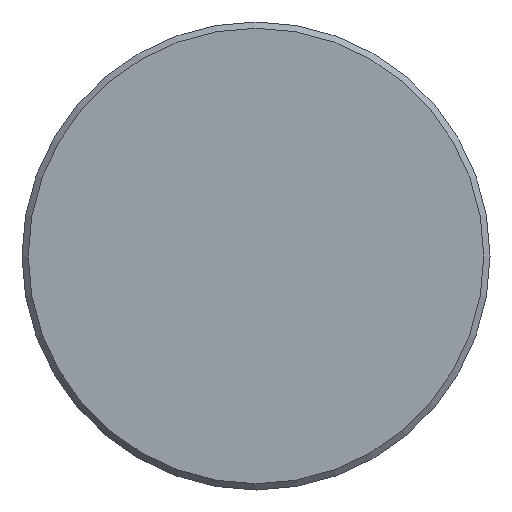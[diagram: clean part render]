
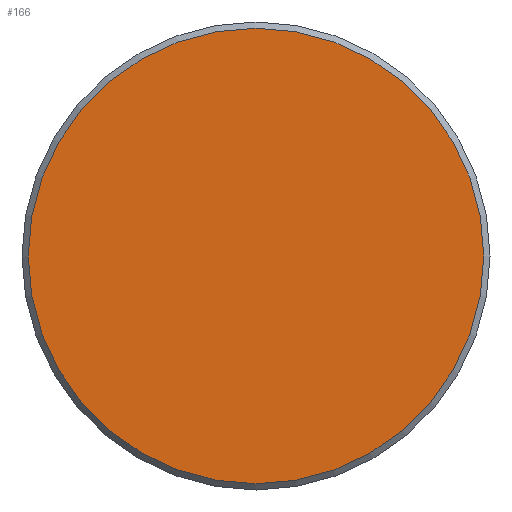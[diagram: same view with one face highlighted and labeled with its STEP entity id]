
A CAD part, front view. The second image highlights one B-rep face of the part: STEP entity #166.
In plain terms, the highlighted planar face has unit normal (0, -1, 0).
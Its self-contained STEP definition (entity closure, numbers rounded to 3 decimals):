
#166 = ADVANCED_FACE( '', ( #334 ), #335, .F. );
#334 = FACE_OUTER_BOUND( '', #530, .T. );
#335 = PLANE( '', #531 );
#530 = EDGE_LOOP( '', ( #775 ) );
#531 = AXIS2_PLACEMENT_3D( '', #776, #777, #778 );
#775 = ORIENTED_EDGE( '', *, *, #1152, .T. );
#776 = CARTESIAN_POINT( '', ( 29.2, 0., 0. ) );
#777 = DIRECTION( '', ( 0., 1., 0. ) );
#778 = DIRECTION( '', ( 0., 0., 1. ) );
#1152 = EDGE_CURVE( '', #1349, #1349, #1350, .T. );
#1349 = VERTEX_POINT( '', #1703 );
#1350 = CIRCLE( '', #1704, 29.2 );
#1703 = CARTESIAN_POINT( '', ( 0., 0., -29.2 ) );
#1704 = AXIS2_PLACEMENT_3D( '', #2020, #2021, #2022 );
#2020 = CARTESIAN_POINT( '', ( 0., 0., 0. ) );
#2021 = DIRECTION( '', ( 0., -1., 0. ) );
#2022 = DIRECTION( '', ( 0., 0., -1. ) );
